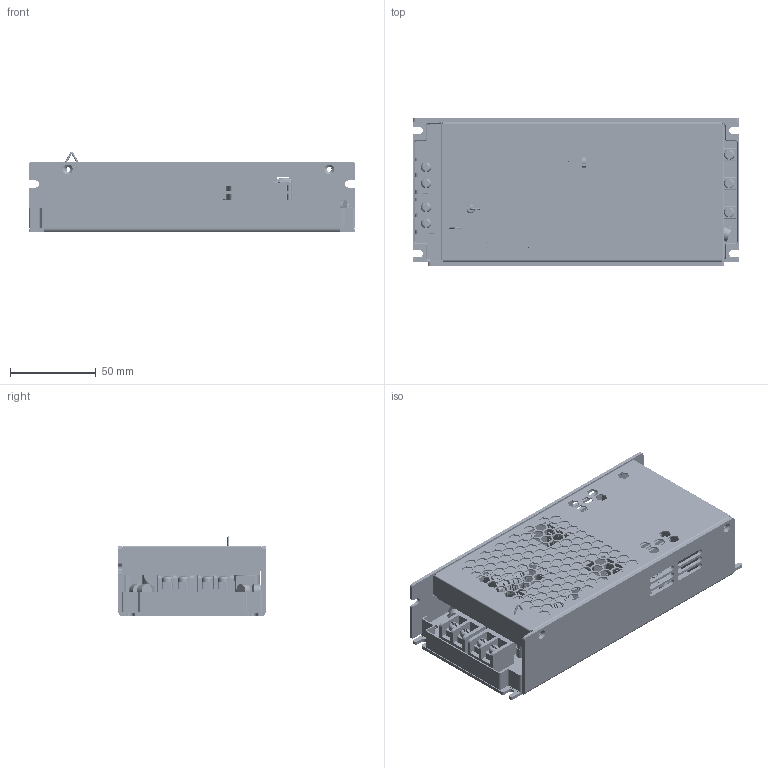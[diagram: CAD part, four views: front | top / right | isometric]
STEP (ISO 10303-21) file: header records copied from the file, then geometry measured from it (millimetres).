
FILE_DESCRIPTION(('Creo Elements/Direct Modeling STEP Export'),'2;1');
FILE_NAME('RSDH-150.stp','2024-05-17T10:01:45',(''),(''),'PTC Creo Elements/Direct Modeling STEP processor for AP214 (Solid Model)','PTC Creo Elements/Direct Modeling 19.0E 27-Jun-2016 (C) Parametric Technology GmbH','');
FILE_SCHEMA(('AUTOMOTIVE_DESIGN { 1 0 10303 214 1 1 1 1 }'));
Length unit declared in the file: millimetre
Products named in the file (787): M3-7L.1; 下盖; M3-7L.1.1.1.1.1; 203; 上盖203A-D; CASE; PCB-B; 零件1; 零件2; 零件3; 零件4; 688539752; R56; 688549024; R55; 688546744; R44; R43; R42; R41; R40; R39; R38; 688542640; R25; 688548872; R6; R4; R3; R2; Extruded; 689408672.1; 689408512; 689408352; 689408192; Cylinder; 1514879664.9; 689409792; 689409632; 689409472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
Assembly tree (1130 placements, depth 10):
  RSDH-150.stp
    RSDH-150
      装配1
        PIN2-2.1
        PIN2-2
        散热片
      1GG1HS-585B.stp
        585B-9400.ASM
          585B-9070.PRT
      VRY-3227-220714.stp
        VRY-3225-220421-H_13_8_STP.ASM
          VRY-3225-220418_STP_ASM.ASM
            VRY-3225_ASM0328_STP_ASM_ASM.ASM
              VRY-3225_ASM_3_ASM_ASM_ASM.ASM
                CORE_ASM_1_ASM_ASM_ASM.ASM
                  PQ-3220_1_1_PRT_PRT_PRT.PRT.5  x2
                  W_1_PRT_PRT_PRT.PRT
                BOBBIN_ASM_1_ASM_ASM_ASM.ASM
                  BOBBIN_1_7_PRT_PRT_PRT.PRT
                  BOBBIN_2_1_PRT_PRT_PRT.PRT
                FL2_ASM_1_ASM_ASM_ASM.ASM
                  WIRE_1_1_PRT_PRT_PRT_5.PRT.8  x3
                  2_1_1_1_PRT_PRT_PRT.PRT.5  x3
                FL1_ASM_1_ASM_ASM_ASM.ASM
                  _X2_88C5914D_X0_1_2_ASM_1_ASM_A.ASM
                  _X2_88C5914D_X0_1_1_ASM_1_ASM_A.ASM
                  _X2_88C5914D_X0_1_ASM_1_ASM_ASM.ASM
      RSDH-150A-R2X组装
        PCB.ASM
          SVR1.ASM
            1AR-_3362P.ASM
              1AR-_3362P_8.PRT
              1AR-_3362P_7.PRT
              1AR-_3362P_6.PRT
              1AR-_3362P_5.PRT
              1AR-_3362P_4.PRT
              1AR-_3362P_3.PRT
              1AR-_3362P_2.PRT
              1AR-_3362P_1.PRT
          R32.ASM
            860966504.ASM
              860966504_4.PRT
              860966504_3.PRT
              860966504_2.PRT
              860966504_1.PRT
          C61.ASM
            860964376.PRT
          C202.ASM
            530330688.ASM.9  x4
              CYLINDER-472011.PRT
            530330840.ASM
              CYLINDER-471819.PRT
            931120416.ASM
              EXTRUDED-469263.PRT
            530330992.ASM
              CYLINDER-469071.PRT
          D112.ASM
            931113376.ASM.5  x2
              EXTRUDED-318012.PRT
            931113536.ASM
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Bounding box: 191 x 86 x 46.65 mm (x, y, z)
Volume: 251029.5 mm3; surface area: 331744.2 mm2
Topology: 936 solids, 939 shells, 22257 faces, 57019 edges, 36788 vertices
Faces by surface type: plane 13042, extrusion 3132, cylinder 2649, bspline 2255, sphere 797, torus 347, cone 31, revolution 4
Entity records: 390630 total; most frequent: CARTESIAN_POINT 132372, ORIENTED_EDGE 44474, DIRECTION 39146, EDGE_CURVE 22237, VECTOR 15702, LINE 15077, VERTEX_POINT 14328, AXIS2_PLACEMENT_3D 11720
